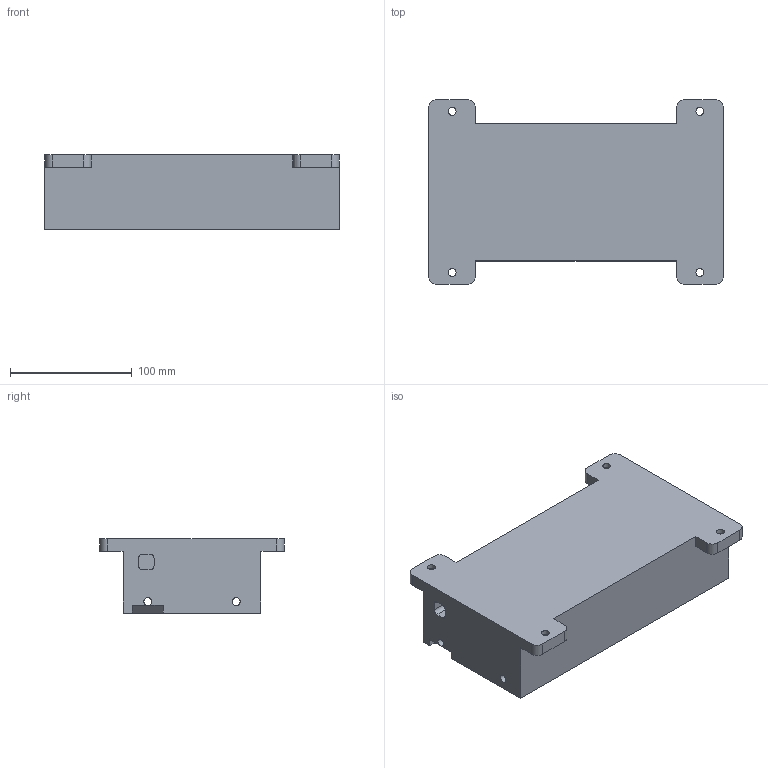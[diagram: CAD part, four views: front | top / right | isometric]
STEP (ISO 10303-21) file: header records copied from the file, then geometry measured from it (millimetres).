
FILE_DESCRIPTION(/* description */ ('STEP AP242 Edition 2','CAx-IF Rec.Pracs.---Representation and Presentation of Product Manufacturing Information (PMI)---4.0---2014-10-13','CAx-IF Rec.Pracs.---3D Tessellated Geometry---0.4---2014-09-14','2;1','CAx-IF Rec.Pracs.---User Defined Attributes---1.5---2016-08-15'),/* implementation_level */ '2;1');
FILE_NAME(/* name */ 'electronics box - Battery Box Main',/* time_stamp */ '2026-05-29T17:27:44Z',/* author */ (''),/* organization */ (''),/* preprocessor_version */ 'ST-DEVELOPER v20',/* originating_system */ 'ONSHAPE BY PTC INC, 1.215',/* authorisation */ ' ');
FILE_SCHEMA (('AP242_MANAGED_MODEL_BASED_3D_ENGINEERING_MIM_LF { 1 0 10303 442 3 1 4 }'));
Length unit declared in the file: metre
Products named in the file (1): Battery Box Main
Bounding box: 241.3 x 151.13 x 60.96 mm (x, y, z)
Volume: 571419.3 mm3; surface area: 140049.7 mm2
Topology: 1 solids, 1 shells, 102 faces, 289 edges, 193 vertices
Faces by surface type: plane 82, cylinder 20
Full cylindrical faces by diameter (mm): 6.528 x8
Entity records: 3266 total; most frequent: CARTESIAN_POINT 569, ORIENTED_EDGE 554, DIRECTION 526, EDGE_CURVE 277, LINE 234, VECTOR 234, VERTEX_POINT 189, AXIS2_PLACEMENT_3D 146
